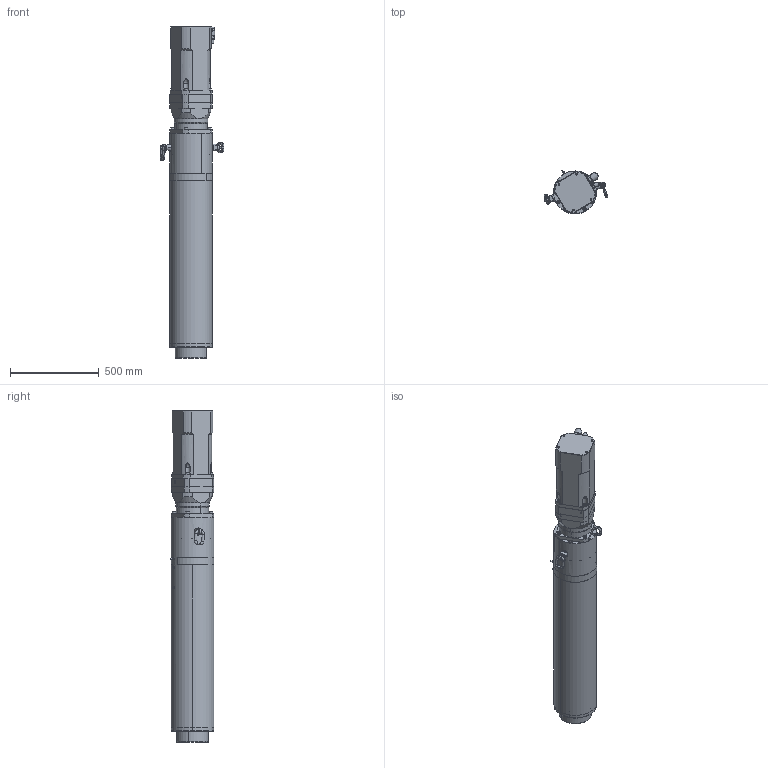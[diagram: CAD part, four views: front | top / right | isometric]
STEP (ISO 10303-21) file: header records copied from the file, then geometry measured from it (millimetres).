
FILE_DESCRIPTION (( 'STEP AP214' ), '1' );
FILE_NAME ('RLWIK200D-055-010HG0.STEP', '2023-04-06T06:28:04', ( '' ), ( '' ), 'SwSTEP 2.0', 'SolidWorks 2021', '' );
FILE_SCHEMA (( 'AUTOMOTIVE_DESIGN' ));
Length unit declared in the file: millimetre
Products named in the file (1): RLWIK200D-055-010HG0
Bounding box: 356.89 x 245.71 x 1867 mm (x, y, z)
Surface area: 3657103.9 mm2 (no closed solid volume)
Topology: 0 solids, 38 shells, 1336 faces, 3186 edges, 1936 vertices
Faces by surface type: cylinder 566, plane 454, cone 228, torus 82, bspline 6
Entity records: 55129 total; most frequent: CARTESIAN_POINT 9115, DIRECTION 6889, ORIENTED_EDGE 6092, EDGE_CURVE 3052, AXIS2_PLACEMENT_3D 2736, VERTEX_POINT 1936, EDGE_LOOP 1582, LINE 1417
